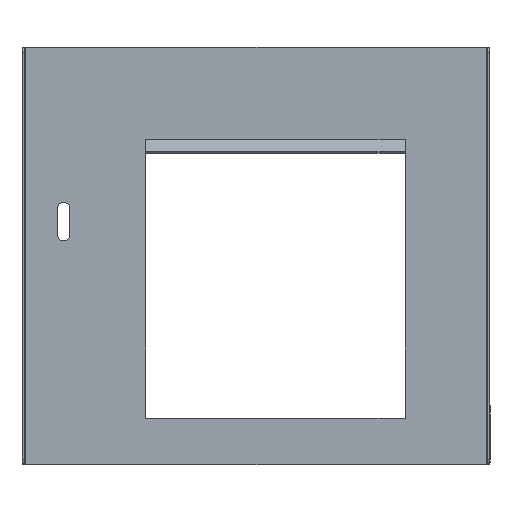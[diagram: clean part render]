
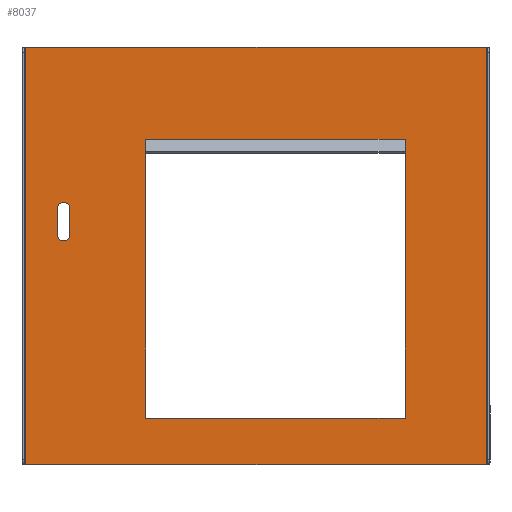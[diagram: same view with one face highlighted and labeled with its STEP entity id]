
A CAD part, front view. The second image highlights one B-rep face of the part: STEP entity #8037.
In plain terms, the highlighted planar face has unit normal (0, -1, 0).
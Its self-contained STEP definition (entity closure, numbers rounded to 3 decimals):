
#131 = CARTESIAN_POINT ( 'NONE',  ( -71.5, 0., 75.621 ) ) ;
#435 = DIRECTION ( 'NONE',  ( 0., 0., -1. ) ) ;
#554 = VERTEX_POINT ( 'NONE', #10573 ) ;
#633 = EDGE_CURVE ( 'NONE', #9242, #2944, #7689, .T. ) ;
#637 = ORIENTED_EDGE ( 'NONE', *, *, #7790, .T. ) ;
#776 = VECTOR ( 'NONE', #2413, 1000. ) ;
#922 = VECTOR ( 'NONE', #10109, 1000. ) ;
#989 = VECTOR ( 'NONE', #10594, 1000. ) ;
#1035 = LINE ( 'NONE', #4891, #989 ) ;
#1253 = VERTEX_POINT ( 'NONE', #9124 ) ;
#1306 = CARTESIAN_POINT ( 'NONE',  ( 96.5, 0., 73.5 ) ) ;
#1325 = ORIENTED_EDGE ( 'NONE', *, *, #2191, .T. ) ;
#1508 = CARTESIAN_POINT ( 'NONE',  ( 150., 0., -135. ) ) ;
#1521 = ORIENTED_EDGE ( 'NONE', *, *, #7597, .T. ) ;
#1647 = LINE ( 'NONE', #8627, #4946 ) ;
#1722 = LINE ( 'NONE', #2551, #5407 ) ;
#1798 = VECTOR ( 'NONE', #7660, 1000. ) ;
#1843 = ORIENTED_EDGE ( 'NONE', *, *, #9386, .F. ) ;
#1886 = LINE ( 'NONE', #6356, #1798 ) ;
#2183 = DIRECTION ( 'NONE',  ( 1., 0., 0. ) ) ;
#2191 = EDGE_CURVE ( 'NONE', #5287, #5295, #3294, .T. ) ;
#2261 = ORIENTED_EDGE ( 'NONE', *, *, #3541, .F. ) ;
#2284 = AXIS2_PLACEMENT_3D ( 'NONE', #10059, #6756, #2650 ) ;
#2370 = CARTESIAN_POINT ( 'NONE',  ( -120.5, 0., 135. ) ) ;
#2413 = DIRECTION ( 'NONE',  ( 0., 0., -1. ) ) ;
#2426 = CARTESIAN_POINT ( 'NONE',  ( -149., 0., -135. ) ) ;
#2465 = EDGE_CURVE ( 'NONE', #8359, #5014, #6954, .T. ) ;
#2551 = CARTESIAN_POINT ( 'NONE',  ( 150., 0., -105. ) ) ;
#2613 = VERTEX_POINT ( 'NONE', #2792 ) ;
#2650 = DIRECTION ( 'NONE',  ( -1., 0., 0. ) ) ;
#2792 = CARTESIAN_POINT ( 'NONE',  ( -71.5, 0., 73.5 ) ) ;
#2944 = VERTEX_POINT ( 'NONE', #7273 ) ;
#3012 = CARTESIAN_POINT ( 'NONE',  ( -128.5, 0., 30.72 ) ) ;
#3047 = CARTESIAN_POINT ( 'NONE',  ( 149., 0., 135. ) ) ;
#3062 = VECTOR ( 'NONE', #3184, 1000. ) ;
#3127 = EDGE_CURVE ( 'NONE', #3821, #8359, #7687, .T. ) ;
#3184 = DIRECTION ( 'NONE',  ( 0., 0., -1. ) ) ;
#3204 = DIRECTION ( 'NONE',  ( -1., 0., 0. ) ) ;
#3294 = LINE ( 'NONE', #8064, #3062 ) ;
#3437 = EDGE_CURVE ( 'NONE', #5187, #9242, #4422, .T. ) ;
#3541 = EDGE_CURVE ( 'NONE', #5187, #5481, #4673, .T. ) ;
#3628 = EDGE_CURVE ( 'NONE', #554, #2613, #1035, .T. ) ;
#3680 = EDGE_CURVE ( 'NONE', #4296, #3821, #5086, .T. ) ;
#3821 = VERTEX_POINT ( 'NONE', #10130 ) ;
#3876 = DIRECTION ( 'NONE',  ( 0., 1., 0. ) ) ;
#3893 = AXIS2_PLACEMENT_3D ( 'NONE', #6388, #3876, #10456 ) ;
#4024 = CARTESIAN_POINT ( 'NONE',  ( -71.5, 0., 135. ) ) ;
#4062 = VECTOR ( 'NONE', #10531, 1000. ) ;
#4100 = CARTESIAN_POINT ( 'NONE',  ( 96.5, 0., 75.621 ) ) ;
#4115 = EDGE_CURVE ( 'NONE', #5014, #4296, #1886, .T. ) ;
#4248 = CARTESIAN_POINT ( 'NONE',  ( 150., 0., 75.621 ) ) ;
#4292 = ORIENTED_EDGE ( 'NONE', *, *, #2465, .T. ) ;
#4296 = VERTEX_POINT ( 'NONE', #3012 ) ;
#4422 = LINE ( 'NONE', #9402, #8098 ) ;
#4438 = CARTESIAN_POINT ( 'NONE',  ( -149., 0., 135. ) ) ;
#4673 = LINE ( 'NONE', #4248, #922 ) ;
#4891 = CARTESIAN_POINT ( 'NONE',  ( -71.5, 0., 135. ) ) ;
#4946 = VECTOR ( 'NONE', #8535, 1000. ) ;
#5014 = VERTEX_POINT ( 'NONE', #5487 ) ;
#5086 = CIRCLE ( 'NONE', #3893, 4. ) ;
#5132 = ORIENTED_EDGE ( 'NONE', *, *, #3628, .T. ) ;
#5158 = VERTEX_POINT ( 'NONE', #3047 ) ;
#5187 = VERTEX_POINT ( 'NONE', #4100 ) ;
#5287 = VERTEX_POINT ( 'NONE', #4438 ) ;
#5295 = VERTEX_POINT ( 'NONE', #2426 ) ;
#5407 = VECTOR ( 'NONE', #7544, 1000. ) ;
#5479 = ORIENTED_EDGE ( 'NONE', *, *, #633, .T. ) ;
#5481 = VERTEX_POINT ( 'NONE', #131 ) ;
#5487 = CARTESIAN_POINT ( 'NONE',  ( -128.5, 0., 13.72 ) ) ;
#5771 = DIRECTION ( 'NONE',  ( 1., 0., 0. ) ) ;
#5887 = PLANE ( 'NONE',  #2284 ) ;
#5944 = FACE_BOUND ( 'NONE', #9914, .T. ) ;
#6014 = ORIENTED_EDGE ( 'NONE', *, *, #9466, .T. ) ;
#6099 = CARTESIAN_POINT ( 'NONE',  ( 150., 0., 135. ) ) ;
#6111 = ORIENTED_EDGE ( 'NONE', *, *, #8261, .T. ) ;
#6228 = LINE ( 'NONE', #1508, #9802 ) ;
#6356 = CARTESIAN_POINT ( 'NONE',  ( -128.5, 0., 135. ) ) ;
#6388 = CARTESIAN_POINT ( 'NONE',  ( -124.5, 0., 30.72 ) ) ;
#6714 = DIRECTION ( 'NONE',  ( 0., 0., 1. ) ) ;
#6751 = CARTESIAN_POINT ( 'NONE',  ( -124.5, 0., 13.72 ) ) ;
#6756 = DIRECTION ( 'NONE',  ( 0., 1., 0. ) ) ;
#6954 = CIRCLE ( 'NONE', #10014, 4. ) ;
#7273 = CARTESIAN_POINT ( 'NONE',  ( 96.5, 0., -105. ) ) ;
#7544 = DIRECTION ( 'NONE',  ( -1., 0., 0. ) ) ;
#7597 = EDGE_CURVE ( 'NONE', #1253, #5158, #1647, .T. ) ;
#7648 = ORIENTED_EDGE ( 'NONE', *, *, #4115, .T. ) ;
#7660 = DIRECTION ( 'NONE',  ( 0., 0., 1. ) ) ;
#7687 = LINE ( 'NONE', #2370, #4062 ) ;
#7689 = LINE ( 'NONE', #9809, #776 ) ;
#7790 = EDGE_CURVE ( 'NONE', #2944, #554, #1722, .T. ) ;
#7796 = LINE ( 'NONE', #4024, #7990 ) ;
#7865 = LINE ( 'NONE', #6099, #7894 ) ;
#7894 = VECTOR ( 'NONE', #2183, 1000. ) ;
#7907 = ORIENTED_EDGE ( 'NONE', *, *, #3680, .T. ) ;
#7990 = VECTOR ( 'NONE', #6714, 1000. ) ;
#8037 = ADVANCED_FACE ( 'NONE', ( #5944, #9514, #9154 ), #5887, .F. ) ;
#8064 = CARTESIAN_POINT ( 'NONE',  ( -149., 0., -135. ) ) ;
#8098 = VECTOR ( 'NONE', #435, 1000. ) ;
#8257 = ORIENTED_EDGE ( 'NONE', *, *, #3127, .T. ) ;
#8261 = EDGE_CURVE ( 'NONE', #5295, #1253, #6228, .T. ) ;
#8359 = VERTEX_POINT ( 'NONE', #8637 ) ;
#8535 = DIRECTION ( 'NONE',  ( 0., 0., 1. ) ) ;
#8627 = CARTESIAN_POINT ( 'NONE',  ( 149., 0., 135. ) ) ;
#8637 = CARTESIAN_POINT ( 'NONE',  ( -120.5, 0., 13.72 ) ) ;
#8646 = ORIENTED_EDGE ( 'NONE', *, *, #3437, .T. ) ;
#9124 = CARTESIAN_POINT ( 'NONE',  ( 149., 0., -135. ) ) ;
#9154 = FACE_OUTER_BOUND ( 'NONE', #10512, .T. ) ;
#9242 = VERTEX_POINT ( 'NONE', #1306 ) ;
#9386 = EDGE_CURVE ( 'NONE', #5287, #5158, #7865, .T. ) ;
#9402 = CARTESIAN_POINT ( 'NONE',  ( 96.5, 0., 135. ) ) ;
#9466 = EDGE_CURVE ( 'NONE', #2613, #5481, #7796, .T. ) ;
#9474 = EDGE_LOOP ( 'NONE', ( #2261, #8646, #5479, #637, #5132, #6014 ) ) ;
#9514 = FACE_BOUND ( 'NONE', #9474, .T. ) ;
#9802 = VECTOR ( 'NONE', #5771, 1000. ) ;
#9809 = CARTESIAN_POINT ( 'NONE',  ( 96.5, 0., 135. ) ) ;
#9914 = EDGE_LOOP ( 'NONE', ( #7648, #7907, #8257, #4292 ) ) ;
#9978 = DIRECTION ( 'NONE',  ( 0., 1., 0. ) ) ;
#10014 = AXIS2_PLACEMENT_3D ( 'NONE', #6751, #9978, #3204 ) ;
#10059 = CARTESIAN_POINT ( 'NONE',  ( 150., 0., 135. ) ) ;
#10109 = DIRECTION ( 'NONE',  ( -1., 0., 0. ) ) ;
#10130 = CARTESIAN_POINT ( 'NONE',  ( -120.5, 0., 30.72 ) ) ;
#10456 = DIRECTION ( 'NONE',  ( -1., 0., 0. ) ) ;
#10512 = EDGE_LOOP ( 'NONE', ( #6111, #1521, #1843, #1325 ) ) ;
#10531 = DIRECTION ( 'NONE',  ( 0., 0., -1. ) ) ;
#10573 = CARTESIAN_POINT ( 'NONE',  ( -71.5, 0., -105. ) ) ;
#10594 = DIRECTION ( 'NONE',  ( 0., 0., 1. ) ) ;
